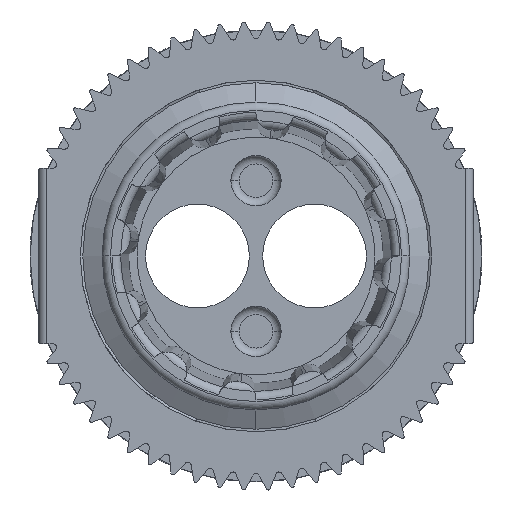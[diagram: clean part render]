
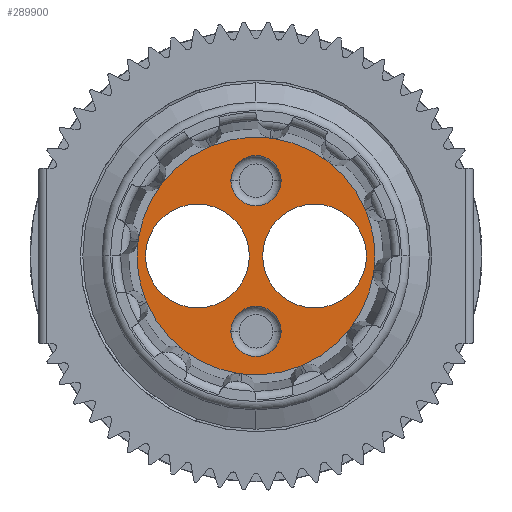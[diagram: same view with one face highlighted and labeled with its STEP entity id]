
A CAD part, left-side view. The second image highlights one B-rep face of the part: STEP entity #289900.
In plain terms, the highlighted planar face has unit normal (-1, 0, 0).
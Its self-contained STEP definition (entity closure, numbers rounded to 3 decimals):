
#288970=CARTESIAN_POINT('',(71.074,60.439,
0.));
#288980=VERTEX_POINT('',#288970);
#289060=CARTESIAN_POINT('',(71.074,44.439,
0.));
#289070=VERTEX_POINT('',#289060);
#289100=CARTESIAN_POINT('',(71.074,52.439,
0.));
#289110=DIRECTION('',(1.,0.,0.));
#289120=DIRECTION('',(0.,-1.,0.));
#289130=AXIS2_PLACEMENT_3D('',#289100,#289110,#289120);
#289140=CIRCLE('',#289130,8.);
#289150=EDGE_CURVE('',#288980,#289070,#289140,.T.);
#289200=CARTESIAN_POINT('',(71.074,48.439,
0.));
#289210=DIRECTION('',(-1.,0.,0.));
#289220=DIRECTION('',(0.,-1.,0.));
#289230=AXIS2_PLACEMENT_3D('',#289200,#289210,#289220);
#289240=PLANE('',#289230);
#289250=EDGE_CURVE('',#289070,#288980,#289140,.T.);
#289260=ORIENTED_EDGE('',*,*,#289250,.F.);
#289270=ORIENTED_EDGE('',*,*,#289150,.F.);
#289280=EDGE_LOOP('',(#289270,#289260));
#289290=FACE_OUTER_BOUND('',#289280,.T.);
#289300=CARTESIAN_POINT('',(71.074,55.939,
0.));
#289310=DIRECTION('',(-1.,0.,0.));
#289320=DIRECTION('',(0.,0.,-1.));
#289330=AXIS2_PLACEMENT_3D('',#289300,#289310,#289320);
#289340=CIRCLE('',#289330,3.1);
#289350=CARTESIAN_POINT('',(71.074,55.939,-3.1));
#289360=VERTEX_POINT('',#289350);
#289370=CARTESIAN_POINT('',(71.074,55.939,3.1))
;
#289380=VERTEX_POINT('',#289370);
#289390=EDGE_CURVE('',#289360,#289380,#289340,.T.);
#289400=ORIENTED_EDGE('',*,*,#289390,.F.);
#289410=EDGE_CURVE('',#289380,#289360,#289340,.T.);
#289420=ORIENTED_EDGE('',*,*,#289410,.F.);
#289430=EDGE_LOOP('',(#289420,#289400));
#289440=FACE_BOUND('',#289430,.T.);
#289450=CARTESIAN_POINT('',(71.074,48.939,
0.));
#289460=DIRECTION('',(-1.,0.,0.));
#289470=DIRECTION('',(0.,0.,-1.));
#289480=AXIS2_PLACEMENT_3D('',#289450,#289460,#289470);
#289490=CIRCLE('',#289480,3.1);
#289500=CARTESIAN_POINT('',(71.074,48.939,-3.1));
#289510=VERTEX_POINT('',#289500);
#289520=CARTESIAN_POINT('',(71.074,48.939,3.1))
;
#289530=VERTEX_POINT('',#289520);
#289540=EDGE_CURVE('',#289510,#289530,#289490,.T.);
#289550=ORIENTED_EDGE('',*,*,#289540,.F.);
#289560=EDGE_CURVE('',#289530,#289510,#289490,.T.);
#289570=ORIENTED_EDGE('',*,*,#289560,.F.);
#289580=EDGE_LOOP('',(#289570,#289550));
#289590=FACE_BOUND('',#289580,.T.);
#289600=CARTESIAN_POINT('',(71.074,52.439,4.5))
;
#289610=DIRECTION('',(-1.,0.,0.));
#289620=DIRECTION('',(0.,0.,-1.));
#289630=AXIS2_PLACEMENT_3D('',#289600,#289610,#289620);
#289640=CIRCLE('',#289630,1.5);
#289650=CARTESIAN_POINT('',(71.074,52.439,3.))
;
#289660=VERTEX_POINT('',#289650);
#289670=CARTESIAN_POINT('',(71.074,52.439,6.))
;
#289680=VERTEX_POINT('',#289670);
#289690=EDGE_CURVE('',#289660,#289680,#289640,.T.);
#289700=ORIENTED_EDGE('',*,*,#289690,.F.);
#289710=EDGE_CURVE('',#289680,#289660,#289640,.T.);
#289720=ORIENTED_EDGE('',*,*,#289710,.F.);
#289730=EDGE_LOOP('',(#289720,#289700));
#289740=FACE_BOUND('',#289730,.T.);
#289750=CARTESIAN_POINT('',(71.074,52.439,-4.5
));
#289760=DIRECTION('',(-1.,0.,0.));
#289770=DIRECTION('',(0.,0.,-1.));
#289780=AXIS2_PLACEMENT_3D('',#289750,#289760,#289770);
#289790=CIRCLE('',#289780,1.5);
#289800=CARTESIAN_POINT('',(71.074,52.439,-6.
));
#289810=VERTEX_POINT('',#289800);
#289820=CARTESIAN_POINT('',(71.074,52.439,-3.
));
#289830=VERTEX_POINT('',#289820);
#289840=EDGE_CURVE('',#289810,#289830,#289790,.T.);
#289850=ORIENTED_EDGE('',*,*,#289840,.F.);
#289860=EDGE_CURVE('',#289830,#289810,#289790,.T.);
#289870=ORIENTED_EDGE('',*,*,#289860,.F.);
#289880=EDGE_LOOP('',(#289870,#289850));
#289890=FACE_BOUND('',#289880,.T.);
#289900=ADVANCED_FACE('',(#289290,#289440,#289590,#289740,#289890),
#289240,.T.);
